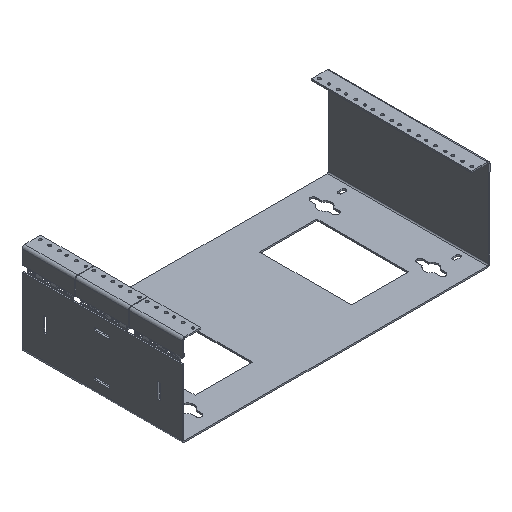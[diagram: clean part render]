
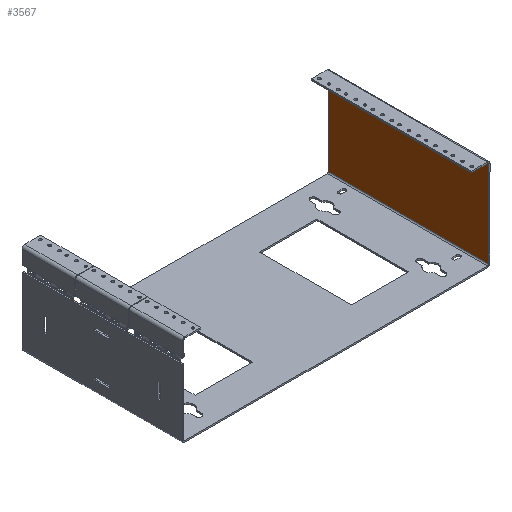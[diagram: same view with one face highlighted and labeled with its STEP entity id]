
A CAD part, isometric view. The second image highlights one B-rep face of the part: STEP entity #3567.
In plain terms, the highlighted planar face has unit normal (-1, 0, 0).
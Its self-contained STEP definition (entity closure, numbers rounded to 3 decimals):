
#962 = DIRECTION ( 'NONE',  ( 0., 1., 0. ) ) ;
#966 = CARTESIAN_POINT ( 'NONE',  ( 254., -133.35, 2.032 ) ) ;
#972 = DIRECTION ( 'NONE',  ( 0., 0., 1. ) ) ;
#1000 = CARTESIAN_POINT ( 'NONE',  ( 254., 133.35, 149.936 ) ) ;
#1004 = DIRECTION ( 'NONE',  ( 0., -1., 0. ) ) ;
#1021 = CARTESIAN_POINT ( 'NONE',  ( 254., 133.35, 145.44 ) ) ;
#1036 = DIRECTION ( 'NONE',  ( 0., 0., -1. ) ) ;
#1051 = CARTESIAN_POINT ( 'NONE',  ( 254., -133.35, 0. ) ) ;
#1150 = LINE ( 'NONE', #1051, #1155 ) ;
#1154 = LINE ( 'NONE', #1021, #1161 ) ;
#1155 = VECTOR ( 'NONE', #1036, 1000. ) ;
#1160 = LINE ( 'NONE', #1000, #1166 ) ;
#1161 = VECTOR ( 'NONE', #1004, 1000. ) ;
#1166 = VECTOR ( 'NONE', #972, 1000. ) ;
#1168 = LINE ( 'NONE', #966, #1169 ) ;
#1169 = VECTOR ( 'NONE', #962, 1000. ) ;
#1697 = AXIS2_PLACEMENT_3D ( 'NONE', #6699, #6685, #6684 ) ;
#2376 = ORIENTED_EDGE ( 'NONE', *, *, #5357, .F. ) ;
#2377 = ORIENTED_EDGE ( 'NONE', *, *, #5360, .F. ) ;
#2378 = ORIENTED_EDGE ( 'NONE', *, *, #5363, .F. ) ;
#2379 = ORIENTED_EDGE ( 'NONE', *, *, #5364, .F. ) ;
#2666 = FACE_OUTER_BOUND ( 'NONE', #3672, .T. ) ;
#3099 = VERTEX_POINT ( 'NONE', #6777 ) ;
#3102 = VERTEX_POINT ( 'NONE', #6287 ) ;
#3104 = VERTEX_POINT ( 'NONE', #6291 ) ;
#3106 = VERTEX_POINT ( 'NONE', #6221 ) ;
#3567 = ADVANCED_FACE ( 'NONE', ( #2666 ), #6691, .T. ) ;
#3672 = EDGE_LOOP ( 'NONE', ( #2376, #2377, #2378, #2379 ) ) ;
#5357 = EDGE_CURVE ( 'NONE', #3106, #3104, #1150, .T. ) ;
#5360 = EDGE_CURVE ( 'NONE', #3102, #3106, #1154, .T. ) ;
#5363 = EDGE_CURVE ( 'NONE', #3099, #3102, #1160, .T. ) ;
#5364 = EDGE_CURVE ( 'NONE', #3104, #3099, #1168, .T. ) ;
#6221 = CARTESIAN_POINT ( 'NONE',  ( 254., -133.35, 145.44 ) ) ;
#6287 = CARTESIAN_POINT ( 'NONE',  ( 254., 133.35, 145.44 ) ) ;
#6291 = CARTESIAN_POINT ( 'NONE',  ( 254., -133.35, 2.032 ) ) ;
#6684 = DIRECTION ( 'NONE',  ( 0., 0., 1. ) ) ;
#6685 = DIRECTION ( 'NONE',  ( -1., 0., 0. ) ) ;
#6691 = PLANE ( 'NONE',  #1697 ) ;
#6699 = CARTESIAN_POINT ( 'NONE',  ( 254., -133.35, 149.936 ) ) ;
#6777 = CARTESIAN_POINT ( 'NONE',  ( 254., 133.35, 2.032 ) ) ;
